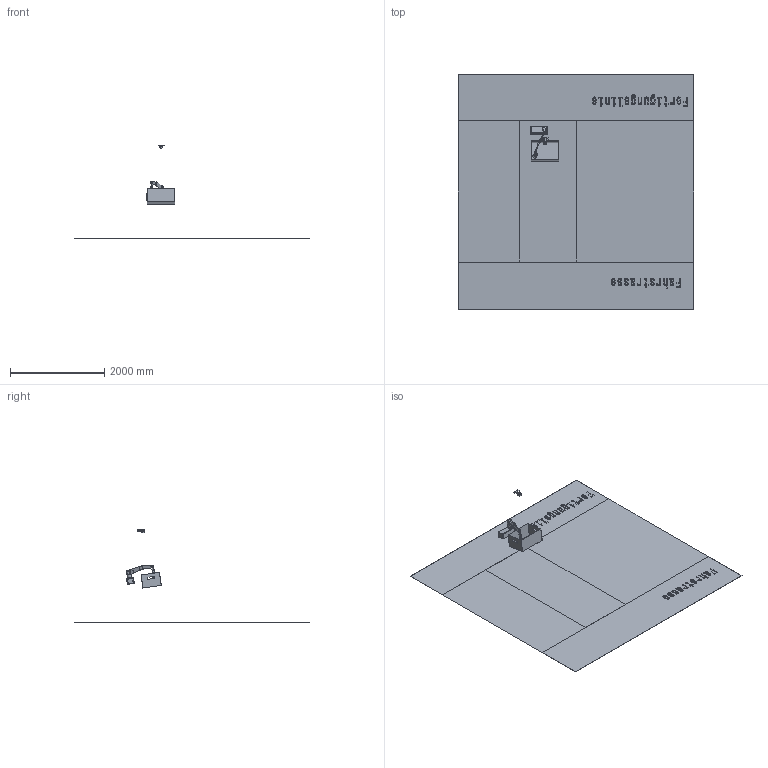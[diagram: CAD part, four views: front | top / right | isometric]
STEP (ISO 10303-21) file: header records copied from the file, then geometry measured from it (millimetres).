
FILE_DESCRIPTION(('CATIA V5 STEP','CAx-IF Rec.Pracs.--- Model Styling and Organization---1.5--- 2016-08-15','CAx-IF Rec.Pracs.---Supplemental Geometry---1.0---2011-11-01','CAx-IF Rec.Pracs.--- Composite Materials ---1.1---2010-07-15'),'2;1');
FILE_NAME('D:\PAL Fachausschuss\117262 Teil 2 Sommer 2024 Zuführeinheit_Idee Kai\praktisch KAI\PAL V03\Übergabe\DATENSATZ_1_BAURAUM_ROBOTER_KAMERA_TRANSPORTKISTE_NEU.stp','2023-11-20T12:34:35+00:00',('none'),('VOLKSWAGEN AG'),'CATIA Version 5-6 Release 2022 SP3 HF12','CATIA V5 STEP AP214 v2','none');
FILE_SCHEMA(('AUTOMOTIVE_DESIGN { 1 0 10303 214 1 1 1 1 }'));
Products named in the file (1): DATENSATZ_1_Bauraum_Roboter_Kamera_Transportkiste
Bounding box: 5000 x 4974.29 x 1968 mm (x, y, z)
Volume: 134742895.9 mm3; surface area: 52090946.8 mm2
Topology: 9 solids, 30 shells, 2239 faces, 5986 edges, 3918 vertices
Faces by surface type: plane 1359, cylinder 555, cone 253, torus 68, sphere 4
Entity records: 68607 total; most frequent: CARTESIAN_POINT 16602, ORIENTED_EDGE 11908, DIRECTION 8453, EDGE_CURVE 5954, VECTOR 4045, LINE 4045, VERTEX_POINT 3869, AXIS2_PLACEMENT_3D 2889
